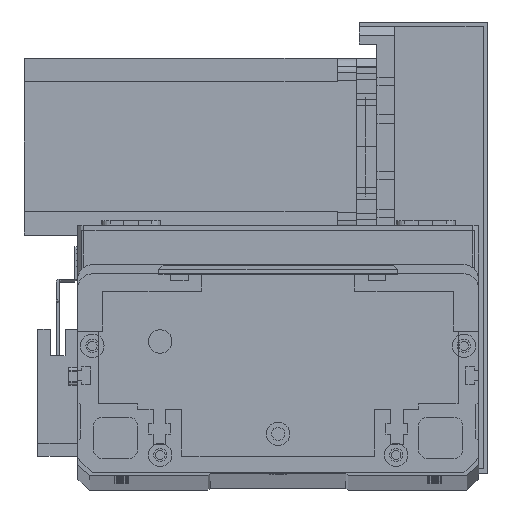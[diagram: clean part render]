
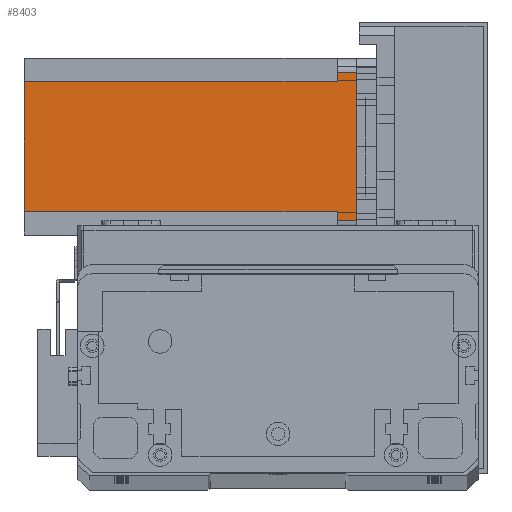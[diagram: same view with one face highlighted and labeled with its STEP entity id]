
A CAD part, top view. The second image highlights one B-rep face of the part: STEP entity #8403.
In plain terms, the highlighted planar face has unit normal (0, 0, 1) as drawn and (0, 1, 0) by its records, which use the part's own axes.
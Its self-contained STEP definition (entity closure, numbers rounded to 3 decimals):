
#696 = VERTEX_POINT ( 'NONE', #18135 ) ;
#1178 = CARTESIAN_POINT ( 'NONE',  ( 8., 60., -112.5 ) ) ;
#1264 = VERTEX_POINT ( 'NONE', #30211 ) ;
#1354 = ORIENTED_EDGE ( 'NONE', *, *, #5129, .F. ) ;
#1427 = CARTESIAN_POINT ( 'NONE',  ( 55., 60., -6.5 ) ) ;
#1713 = DIRECTION ( 'NONE',  ( 0., 0., -1. ) ) ;
#2417 = CARTESIAN_POINT ( 'NONE',  ( 8., 60., -112.5 ) ) ;
#3832 = VERTEX_POINT ( 'NONE', #26891 ) ;
#4077 = DIRECTION ( 'NONE',  ( 0., 0., 1. ) ) ;
#4898 = EDGE_CURVE ( 'NONE', #11894, #5594, #8503, .T. ) ;
#5129 = EDGE_CURVE ( 'NONE', #10788, #5594, #20112, .T. ) ;
#5305 = CARTESIAN_POINT ( 'NONE',  ( 52., 60., -112.5 ) ) ;
#5531 = EDGE_CURVE ( 'NONE', #25502, #10788, #5532, .T. ) ;
#5532 = LINE ( 'NONE', #5305, #14313 ) ;
#5594 = VERTEX_POINT ( 'NONE', #1427 ) ;
#6274 = EDGE_LOOP ( 'NONE', ( #26323, #29304, #1354, #6350, #8898, #11060, #13602, #17893 ) ) ;
#6350 = ORIENTED_EDGE ( 'NONE', *, *, #5531, .F. ) ;
#6950 = LINE ( 'NONE', #14015, #18307 ) ;
#7867 = EDGE_CURVE ( 'NONE', #25502, #9153, #22035, .T. ) ;
#8301 = EDGE_CURVE ( 'NONE', #1264, #9153, #30354, .T. ) ;
#8403 = ADVANCED_FACE ( 'NONE', ( #22009 ), #22311, .T. ) ;
#8503 = LINE ( 'NONE', #27778, #13371 ) ;
#8542 = EDGE_CURVE ( 'NONE', #1264, #696, #6950, .T. ) ;
#8898 = ORIENTED_EDGE ( 'NONE', *, *, #7867, .T. ) ;
#9153 = VERTEX_POINT ( 'NONE', #2417 ) ;
#9546 = LINE ( 'NONE', #30719, #21516 ) ;
#10060 = VECTOR ( 'NONE', #19727, 1000. ) ;
#10788 = VERTEX_POINT ( 'NONE', #17410 ) ;
#11060 = ORIENTED_EDGE ( 'NONE', *, *, #8301, .F. ) ;
#11174 = EDGE_CURVE ( 'NONE', #696, #3832, #9546, .T. ) ;
#11894 = VERTEX_POINT ( 'NONE', #18200 ) ;
#12431 = DIRECTION ( 'NONE',  ( -1., 0., 0. ) ) ;
#13215 = AXIS2_PLACEMENT_3D ( 'NONE', #22634, #21552, #21492 ) ;
#13371 = VECTOR ( 'NONE', #27456, 1000. ) ;
#13512 = VECTOR ( 'NONE', #12431, 1000. ) ;
#13602 = ORIENTED_EDGE ( 'NONE', *, *, #8542, .T. ) ;
#13821 = DIRECTION ( 'NONE',  ( -1., 0., 0. ) ) ;
#14015 = CARTESIAN_POINT ( 'NONE',  ( 8., 60., -6.5 ) ) ;
#14313 = VECTOR ( 'NONE', #4077, 1000. ) ;
#17301 = CARTESIAN_POINT ( 'NONE',  ( 0., 60., -112.5 ) ) ;
#17410 = CARTESIAN_POINT ( 'NONE',  ( 52., 60., -6.5 ) ) ;
#17893 = ORIENTED_EDGE ( 'NONE', *, *, #11174, .T. ) ;
#18135 = CARTESIAN_POINT ( 'NONE',  ( 5., 60., -6.5 ) ) ;
#18200 = CARTESIAN_POINT ( 'NONE',  ( 55., 60., 0. ) ) ;
#18307 = VECTOR ( 'NONE', #13821, 1000. ) ;
#19727 = DIRECTION ( 'NONE',  ( -1., 0., 0. ) ) ;
#20112 = LINE ( 'NONE', #21360, #27062 ) ;
#20628 = LINE ( 'NONE', #24366, #13512 ) ;
#21360 = CARTESIAN_POINT ( 'NONE',  ( 52., 60., -6.5 ) ) ;
#21492 = DIRECTION ( 'NONE',  ( 0., 0., 1. ) ) ;
#21516 = VECTOR ( 'NONE', #30527, 1000. ) ;
#21552 = DIRECTION ( 'NONE',  ( 0., 1., 0. ) ) ;
#22009 = FACE_OUTER_BOUND ( 'NONE', #6274, .T. ) ;
#22035 = LINE ( 'NONE', #17301, #10060 ) ;
#22311 = PLANE ( 'NONE',  #13215 ) ;
#22483 = DIRECTION ( 'NONE',  ( 1., 0., 0. ) ) ;
#22634 = CARTESIAN_POINT ( 'NONE',  ( 0., 60., -112.5 ) ) ;
#24065 = EDGE_CURVE ( 'NONE', #11894, #3832, #20628, .T. ) ;
#24366 = CARTESIAN_POINT ( 'NONE',  ( 0., 60., 0. ) ) ;
#25316 = CARTESIAN_POINT ( 'NONE',  ( 52., 60., -112.5 ) ) ;
#25502 = VERTEX_POINT ( 'NONE', #25316 ) ;
#26323 = ORIENTED_EDGE ( 'NONE', *, *, #24065, .F. ) ;
#26891 = CARTESIAN_POINT ( 'NONE',  ( 5., 60., 0. ) ) ;
#27062 = VECTOR ( 'NONE', #22483, 1000. ) ;
#27456 = DIRECTION ( 'NONE',  ( 0., 0., -1. ) ) ;
#27778 = CARTESIAN_POINT ( 'NONE',  ( 55., 60., -112.5 ) ) ;
#28912 = VECTOR ( 'NONE', #1713, 1000. ) ;
#29304 = ORIENTED_EDGE ( 'NONE', *, *, #4898, .T. ) ;
#30211 = CARTESIAN_POINT ( 'NONE',  ( 8., 60., -6.5 ) ) ;
#30354 = LINE ( 'NONE', #1178, #28912 ) ;
#30527 = DIRECTION ( 'NONE',  ( 0., 0., 1. ) ) ;
#30719 = CARTESIAN_POINT ( 'NONE',  ( 5., 60., -112.5 ) ) ;
